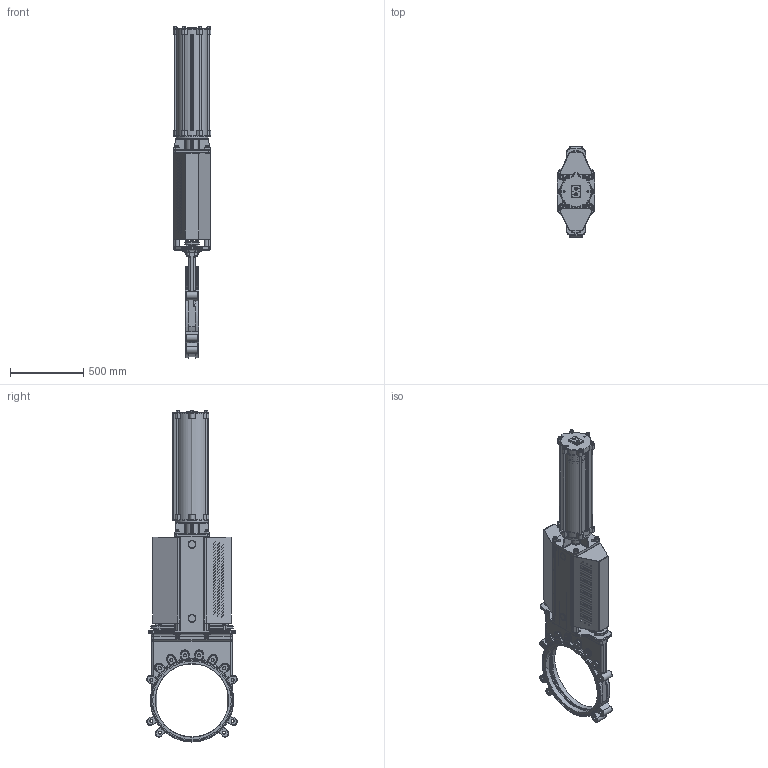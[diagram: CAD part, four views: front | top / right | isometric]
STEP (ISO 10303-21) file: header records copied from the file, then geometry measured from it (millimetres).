
FILE_DESCRIPTION(/* description */ (''),/* implementation_level */ '2;1');
FILE_NAME(/* name */ 'F:\Emir\3D-block special\WB\WGL-DN500-PN10-FRSC200-550M.stp',/* time_stamp */ '2018-03-05T12:18:31+01:00',/* author */ ('emimus'),/* organization */ (''),/* preprocessor_version */ 'ST-DEVELOPER v17',/* originating_system */ 'Autodesk Inventor 2018',/* authorisation */ '');
FILE_SCHEMA (('CONFIG_CONTROL_DESIGN'));
Products named in the file (1): WGL-DN500-PN10-FRSC200-550M_Shrinkwrap_1
Bounding box: 257.51 x 616.61 x 2260 mm (x, y, z)
Volume: 32732389.3 mm3; surface area: 6826316 mm2
Topology: 1 solids, 1 shells, 4393 faces, 11316 edges, 7009 vertices
Faces by surface type: plane 1520, cylinder 1369, torus 474, bspline 450, cone 372, sphere 208
Full cylindrical faces by diameter (mm): 3.7 x16, 4.2 x16, 4.3 x2, 4.5 x16, 4.917 x7, 5 x2, 6.647 x4, 7.5 x4, 8.376 x4, 9.5 x2, 10 x9, 10.106 x6, 10.25 x4, 12 x16, 13 x16, 15 x1, 17 x4, 17.5 x4, 18 x2, 18.631 x2, 20 x12, 20.752 x4, 21 x32, 22.49 x4, 24 x11, 33 x1, 36 x2, 37 x4, 40 x9, 40.1 x1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
Entity records: 157151 total; most frequent: CARTESIAN_POINT 50334, DIRECTION 22724, ORIENTED_EDGE 22492, EDGE_CURVE 11246, AXIS2_PLACEMENT_3D 9085, VERTEX_POINT 7007, EDGE_LOOP 5005, CIRCLE 4855
